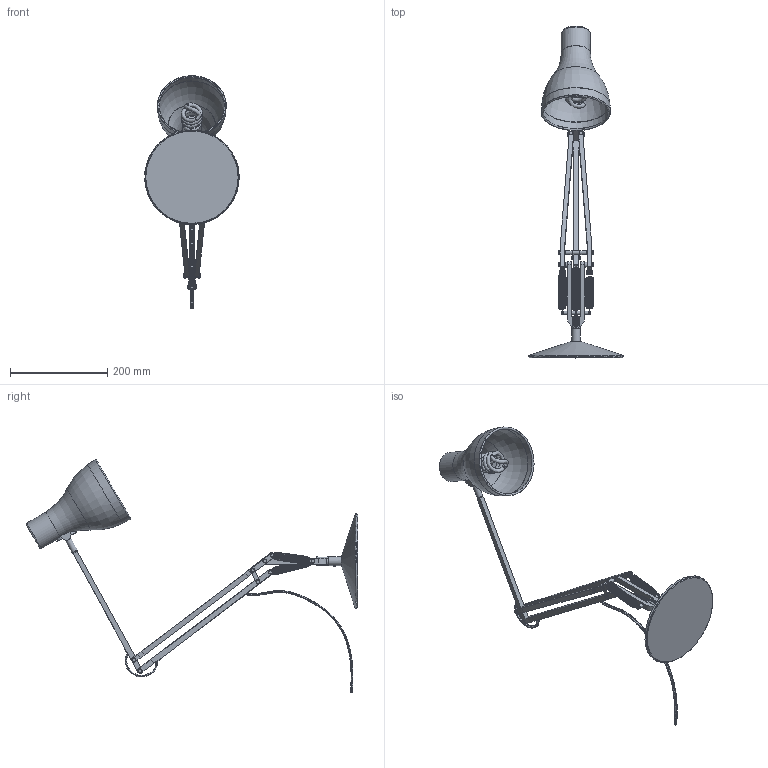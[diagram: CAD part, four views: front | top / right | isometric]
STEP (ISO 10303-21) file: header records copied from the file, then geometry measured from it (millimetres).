
FILE_DESCRIPTION (( 'STEP AP214' ), '1' );
FILE_NAME ('Type75_Desk_Lamp_STEP_01.STEP', '2014-12-18T10:41:39', ( '' ), ( '' ), 'SwSTEP 2.0', 'SolidWorks 2014', '' );
FILE_SCHEMA (( 'AUTOMOTIVE_DESIGN' ));
Length unit declared in the file: millimetre
Products named in the file (1): Type75_Desk_Lamp_STEP_01
Bounding box: 194.86 x 681.08 x 477.45 mm (x, y, z)
Volume: 837669.6 mm3; surface area: 310601.2 mm2
Topology: 1 solids, 1 shells, 591 faces, 1542 edges, 1023 vertices
Faces by surface type: plane 307, cylinder 188, bspline 55, torus 35, cone 4, sphere 2
Full cylindrical faces by diameter (mm): 0.53 x1, 0.653 x1, 3 x5, 3.1 x3, 4 x6, 5 x6, 5.5 x12, 5.8 x3, 7 x6, 7.5 x12, 8 x37, 9 x2, 9.8 x2, 10 x2, 12.5 x1, 13.335 x2, 17.5 x1, 18 x1, 37.5 x1, 38.1 x1, 57.97 x1, 59.97 x1, 137.5 x1, 191.5 x1
Entity records: 46769 total; most frequent: CARTESIAN_POINT 33000, ORIENTED_EDGE 2540, DIRECTION 2505, EDGE_CURVE 1270, EDGE_LOOP 939, VERTEX_POINT 923, AXIS2_PLACEMENT_3D 914, FACE_OUTER_BOUND 759
